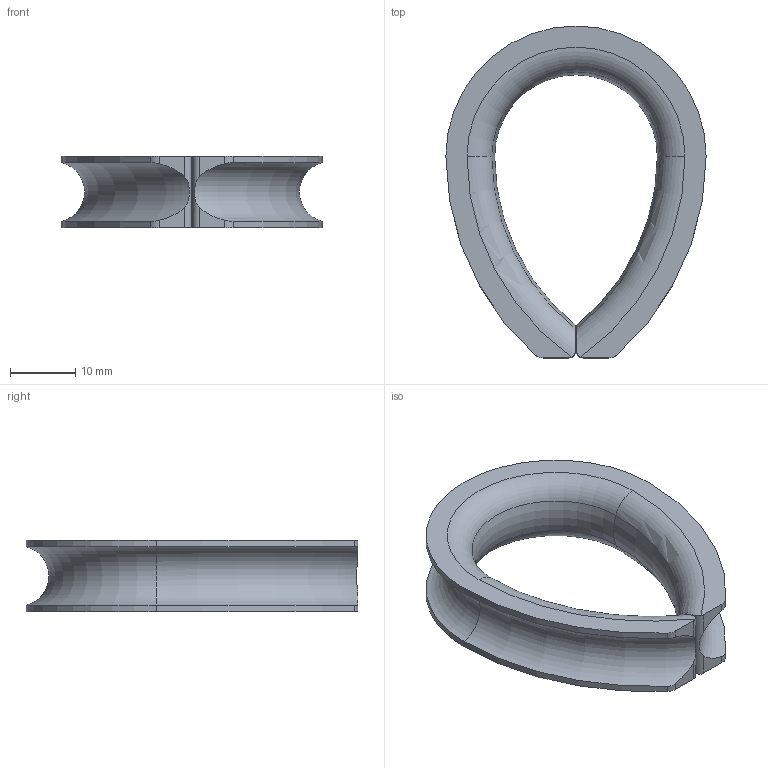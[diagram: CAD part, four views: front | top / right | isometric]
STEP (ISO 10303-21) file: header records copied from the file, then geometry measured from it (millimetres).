
FILE_DESCRIPTION(/* description */ (''),/* implementation_level */ '2;1');
FILE_NAME(/* name */ 'C:\Users\D\Documents\Inventor\各種小物\JIS\シンブル\A形\9.stp',/* time_stamp */ '2022-06-17T16:50:27+09:00',/* author */ ('D'),/* organization */ (''),/* preprocessor_version */ 'ST-DEVELOPER v18',/* originating_system */ 'Autodesk Inventor 2020',/* authorisation */ '');
FILE_SCHEMA (('AUTOMOTIVE_DESIGN { 1 0 10303 214 3 1 1 }'));
Length unit declared in the file: millimetre
Products named in the file (1): 6
Bounding box: 40 x 51 x 11 mm (x, y, z)
Volume: 5919.9 mm3; surface area: 4482.7 mm2
Topology: 1 solids, 1 shells, 32 faces, 84 edges, 54 vertices
Faces by surface type: torus 12, cylinder 12, plane 8
Entity records: 1253 total; most frequent: CARTESIAN_POINT 427, ORIENTED_EDGE 168, DIRECTION 168, EDGE_CURVE 84, AXIS2_PLACEMENT_3D 73, VERTEX_POINT 54, CIRCLE 40, FACE_OUTER_BOUND 32
